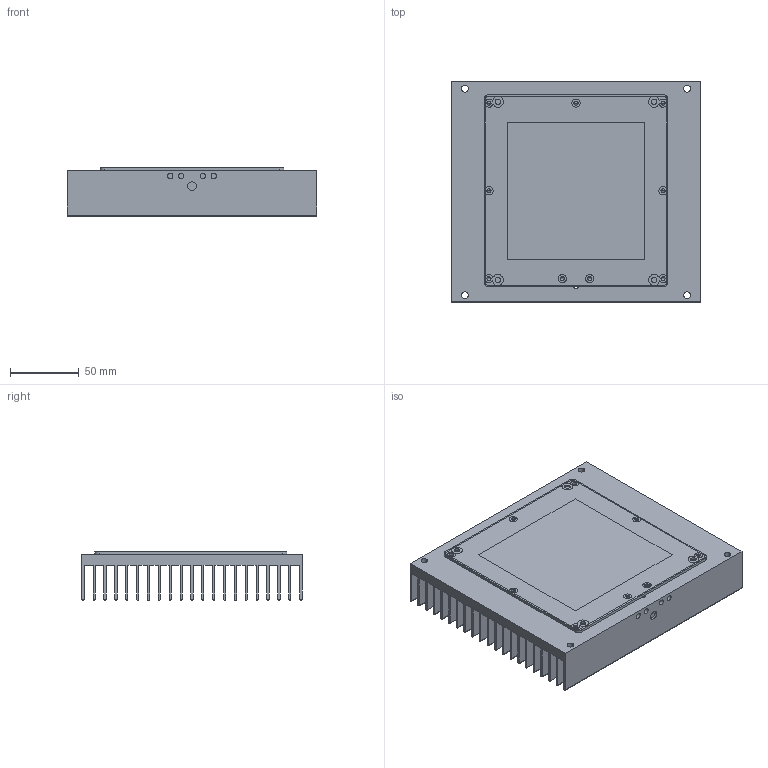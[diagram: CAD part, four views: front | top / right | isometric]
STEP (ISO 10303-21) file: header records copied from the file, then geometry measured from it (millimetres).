
FILE_DESCRIPTION (( 'STEP AP214' ), '1' );
FILE_NAME ('3DEE_STD_100X100HSC_IND_D.STEP', '2019-11-08T10:08:01', ( '' ), ( '' ), 'SwSTEP 2.0', 'SolidWorks 2012', '' );
FILE_SCHEMA (( 'AUTOMOTIVE_DESIGN' ));
Length unit declared in the file: millimetre
Products named in the file (1): 3DEE_STD_100X100HSC_IND_D
Bounding box: 182 x 160.5 x 35.32 mm (x, y, z)
Surface area: 275571.2 mm2 (no closed solid volume)
Topology: 0 solids, 11 shells, 176 faces, 616 edges, 440 vertices
Faces by surface type: cylinder 92, plane 80, cone 4
Entity records: 8766 total; most frequent: CARTESIAN_POINT 1256, DIRECTION 1219, ORIENTED_EDGE 1048, EDGE_CURVE 616, VERTEX_POINT 440, AXIS2_PLACEMENT_3D 429, VECTOR 361, LINE 361
